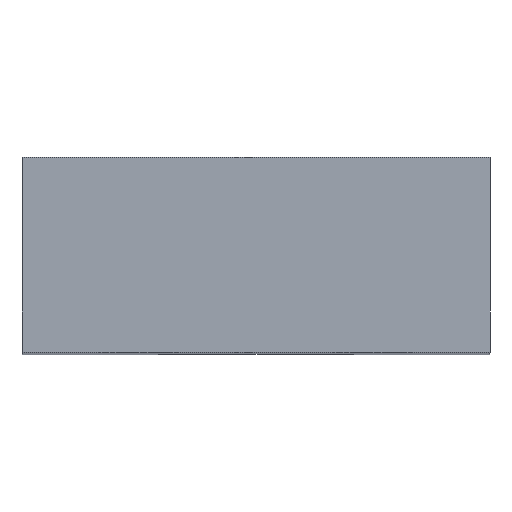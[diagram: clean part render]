
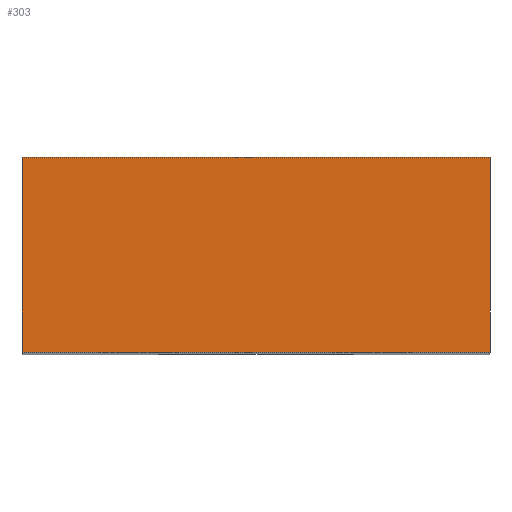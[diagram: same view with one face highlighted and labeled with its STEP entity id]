
A CAD part, top view. The second image highlights one B-rep face of the part: STEP entity #303.
In plain terms, the highlighted planar face has unit normal (0, 0, 1).
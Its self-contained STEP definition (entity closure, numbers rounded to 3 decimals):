
#30=PLANE('',#347);
#57=FACE_OUTER_BOUND('',#77,.T.);
#77=EDGE_LOOP('',(#273,#274,#275,#276));
#97=LINE('',#483,#125);
#102=LINE('',#493,#130);
#107=LINE('',#502,#135);
#108=LINE('',#504,#136);
#125=VECTOR('',#403,10.);
#130=VECTOR('',#412,10.);
#135=VECTOR('',#421,10.);
#136=VECTOR('',#424,10.);
#166=VERTEX_POINT('',#480);
#167=VERTEX_POINT('',#482);
#170=VERTEX_POINT('',#492);
#172=VERTEX_POINT('',#500);
#199=EDGE_CURVE('',#166,#167,#97,.T.);
#204=EDGE_CURVE('',#167,#170,#102,.T.);
#209=EDGE_CURVE('',#166,#172,#107,.T.);
#210=EDGE_CURVE('',#170,#172,#108,.T.);
#273=ORIENTED_EDGE('',*,*,#199,.F.);
#274=ORIENTED_EDGE('',*,*,#209,.T.);
#275=ORIENTED_EDGE('',*,*,#210,.F.);
#276=ORIENTED_EDGE('',*,*,#204,.F.);
#303=ADVANCED_FACE('',(#57),#30,.T.);
#347=AXIS2_PLACEMENT_3D('',#503,#422,#423);
#403=DIRECTION('',(-1.,0.,0.));
#412=DIRECTION('',(0.,1.,0.));
#421=DIRECTION('',(0.,1.,0.));
#422=DIRECTION('center_axis',(0.,0.,1.));
#423=DIRECTION('ref_axis',(1.,0.,0.));
#424=DIRECTION('',(1.,0.,0.));
#480=CARTESIAN_POINT('',(0.,0.,0.));
#482=CARTESIAN_POINT('',(-12.,0.,0.));
#483=CARTESIAN_POINT('',(0.,0.,0.));
#492=CARTESIAN_POINT('',(-12.,5.,0.));
#493=CARTESIAN_POINT('',(-12.,0.,0.));
#500=CARTESIAN_POINT('',(0.,5.,0.));
#502=CARTESIAN_POINT('',(0.,0.,0.));
#503=CARTESIAN_POINT('Origin',(-12.,0.,0.));
#504=CARTESIAN_POINT('',(0.,5.,0.));
